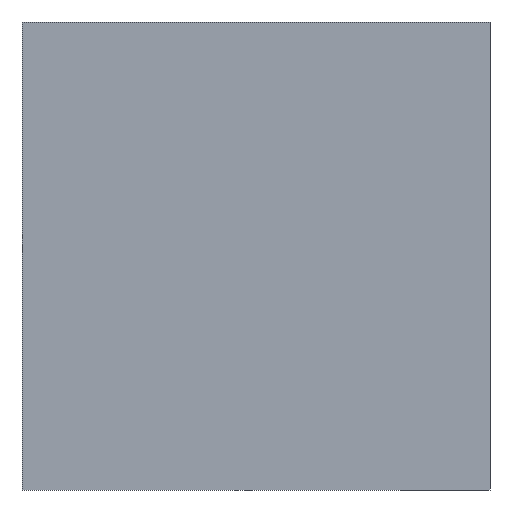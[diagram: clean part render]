
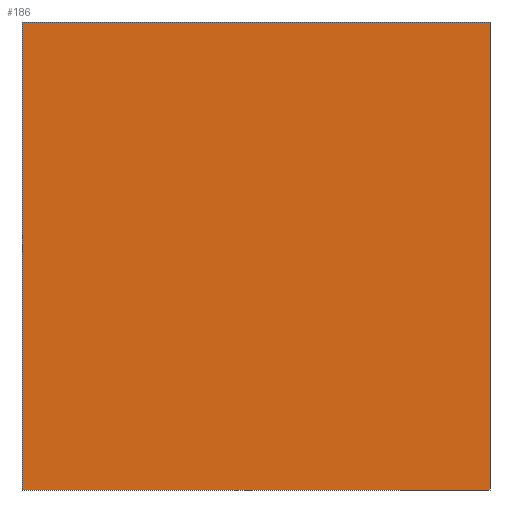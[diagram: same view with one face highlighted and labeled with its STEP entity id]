
A CAD part, front view. The second image highlights one B-rep face of the part: STEP entity #186.
In plain terms, the highlighted planar face has unit normal (0, -1, 0).
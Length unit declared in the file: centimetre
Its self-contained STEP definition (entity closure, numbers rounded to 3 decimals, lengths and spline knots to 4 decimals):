
#7 = CARTESIAN_POINT ( 'NONE',  ( 1000., 0., 1000. ) ) ;
#13 = CARTESIAN_POINT ( 'NONE',  ( 0., 0., 1000. ) ) ;
#23 = EDGE_CURVE ( 'NONE', #971, #818, #391, .T. ) ;
#26 = PLANE ( 'NONE',  #57 ) ;
#28 = VECTOR ( 'NONE', #64, 100. ) ;
#36 = ORIENTED_EDGE ( 'NONE', *, *, #817, .F. ) ;
#57 = AXIS2_PLACEMENT_3D ( 'NONE', #103, #813, #193 ) ;
#64 = DIRECTION ( 'NONE',  ( 0., 0., -1. ) ) ;
#103 = CARTESIAN_POINT ( 'NONE',  ( 0., 0., 1000. ) ) ;
#180 = FACE_OUTER_BOUND ( 'NONE', #425, .T. ) ;
#186 = ADVANCED_FACE ( 'NONE', ( #180 ), #26, .F. ) ;
#193 = DIRECTION ( 'NONE',  ( 0., 0., 1. ) ) ;
#215 = LINE ( 'NONE', #451, #28 ) ;
#235 = VECTOR ( 'NONE', #692, 100. ) ;
#249 = LINE ( 'NONE', #265, #374 ) ;
#265 = CARTESIAN_POINT ( 'NONE',  ( 0., 0., 0. ) ) ;
#299 = CARTESIAN_POINT ( 'NONE',  ( 0., 0., 1000. ) ) ;
#329 = VERTEX_POINT ( 'NONE', #837 ) ;
#374 = VECTOR ( 'NONE', #728, 100. ) ;
#391 = LINE ( 'NONE', #13, #569 ) ;
#425 = EDGE_LOOP ( 'NONE', ( #724, #621, #36, #553 ) ) ;
#451 = CARTESIAN_POINT ( 'NONE',  ( 1000., 0., 1000. ) ) ;
#476 = VERTEX_POINT ( 'NONE', #7 ) ;
#553 = ORIENTED_EDGE ( 'NONE', *, *, #23, .T. ) ;
#569 = VECTOR ( 'NONE', #869, 100. ) ;
#621 = ORIENTED_EDGE ( 'NONE', *, *, #802, .F. ) ;
#692 = DIRECTION ( 'NONE',  ( 1., 0., 0. ) ) ;
#724 = ORIENTED_EDGE ( 'NONE', *, *, #847, .T. ) ;
#728 = DIRECTION ( 'NONE',  ( 1., 0., 0. ) ) ;
#802 = EDGE_CURVE ( 'NONE', #476, #329, #215, .T. ) ;
#813 = DIRECTION ( 'NONE',  ( 0., 1., 0. ) ) ;
#817 = EDGE_CURVE ( 'NONE', #971, #476, #1015, .T. ) ;
#818 = VERTEX_POINT ( 'NONE', #1020 ) ;
#837 = CARTESIAN_POINT ( 'NONE',  ( 1000., 0., 0. ) ) ;
#847 = EDGE_CURVE ( 'NONE', #818, #329, #249, .T. ) ;
#869 = DIRECTION ( 'NONE',  ( 0., 0., -1. ) ) ;
#911 = CARTESIAN_POINT ( 'NONE',  ( 0., 0., 1000. ) ) ;
#971 = VERTEX_POINT ( 'NONE', #911 ) ;
#1015 = LINE ( 'NONE', #299, #235 ) ;
#1020 = CARTESIAN_POINT ( 'NONE',  ( 0., 0., 0. ) ) ;
